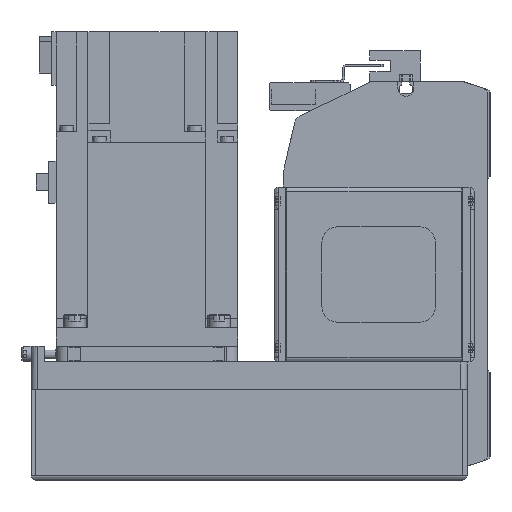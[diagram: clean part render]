
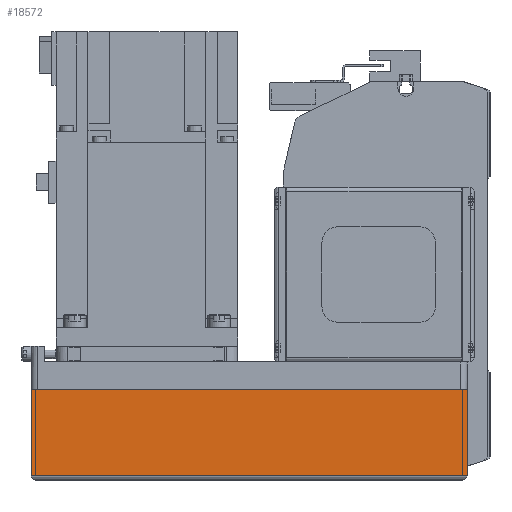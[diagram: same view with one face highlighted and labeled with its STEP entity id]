
A CAD part, left-side view. The second image highlights one B-rep face of the part: STEP entity #18572.
In plain terms, the highlighted planar face has unit normal (-1, 0, 0) as drawn and (0, -1, 0) by its records, which use the part's own axes.
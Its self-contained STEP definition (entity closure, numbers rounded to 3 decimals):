
#2898=ORIENTED_EDGE('',*,*,#7495,.F.);
#2899=ORIENTED_EDGE('',*,*,#7479,.F.);
#2900=ORIENTED_EDGE('',*,*,#7472,.T.);
#2901=ORIENTED_EDGE('',*,*,#7542,.T.);
#7472=EDGE_CURVE('',#9945,#9944,#11848,.T.);
#7479=EDGE_CURVE('',#9945,#9951,#11855,.T.);
#7495=EDGE_CURVE('',#9951,#9965,#11871,.T.);
#7542=EDGE_CURVE('',#9944,#9965,#11892,.T.);
#9944=VERTEX_POINT('',#28503);
#9945=VERTEX_POINT('',#28505);
#9951=VERTEX_POINT('',#28520);
#9965=VERTEX_POINT('',#28553);
#11848=LINE('',#28504,#13524);
#11855=LINE('',#28519,#13531);
#11871=LINE('',#28552,#13547);
#11892=LINE('',#28633,#13568);
#13524=VECTOR('',#22804,1000.);
#13531=VECTOR('',#22815,1000.);
#13547=VECTOR('',#22837,1000.);
#13568=VECTOR('',#22946,1000.);
#15062=EDGE_LOOP('',(#2898,#2899,#2900,#2901));
#16524=FACE_BOUND('',#15062,.T.);
#17817=PLANE('',#19915);
#18572=ADVANCED_FACE('',(#16524),#17817,.T.);
#19915=AXIS2_PLACEMENT_3D('',#28634,#22947,#22948);
#22804=DIRECTION('',(0.,0.,-1.));
#22815=DIRECTION('',(1.,0.,0.));
#22837=DIRECTION('',(0.,0.,-1.));
#22946=DIRECTION('',(1.,0.,0.));
#22947=DIRECTION('',(0.,-1.,0.));
#22948=DIRECTION('',(0.,0.,-1.));
#28503=CARTESIAN_POINT('',(-192.,-40.,-50.));
#28504=CARTESIAN_POINT('',(-192.,-40.,-12.1));
#28505=CARTESIAN_POINT('',(-192.,-40.,-12.1));
#28519=CARTESIAN_POINT('',(-192.,-40.,-12.1));
#28520=CARTESIAN_POINT('',(0.,-40.,-12.1));
#28552=CARTESIAN_POINT('',(0.,-40.,-12.1));
#28553=CARTESIAN_POINT('',(0.,-40.,-50.));
#28633=CARTESIAN_POINT('',(-192.,-40.,-50.));
#28634=CARTESIAN_POINT('',(-192.,-40.,-12.1));
